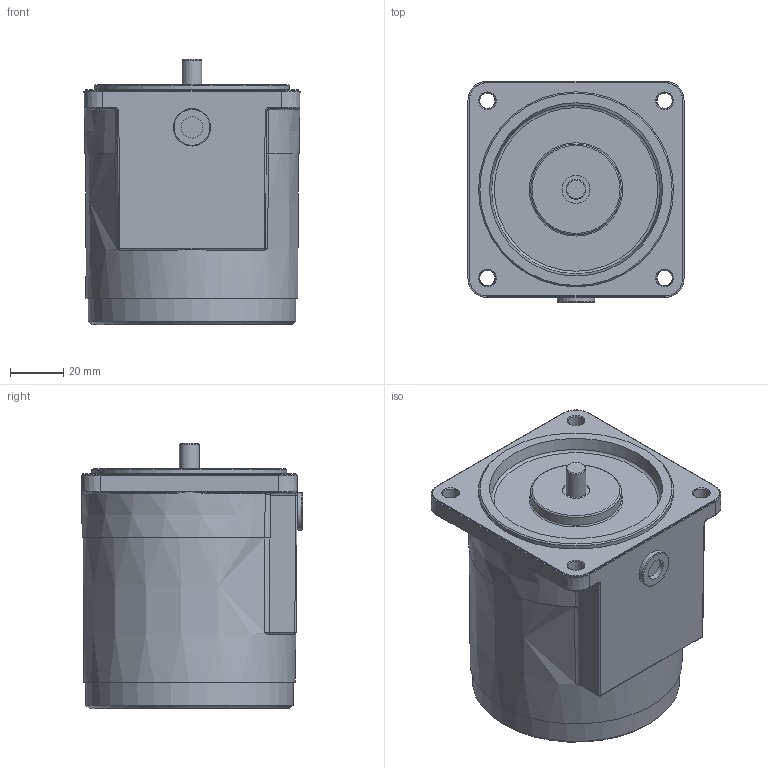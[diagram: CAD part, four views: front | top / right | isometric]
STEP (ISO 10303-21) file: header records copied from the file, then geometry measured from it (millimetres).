
FILE_DESCRIPTION (( 'STEP AP214' ), '1' );
FILE_NAME ('8IDG¤±-15G.STEP', '2025-01-13T01:47:03', ( '' ), ( '' ), 'SwSTEP 2.0', 'SolidWorks 2024', '' );
FILE_SCHEMA (( 'AUTOMOTIVE_DESIGN' ));
Length unit declared in the file: millimetre
Products named in the file (1): 8IDGㅁ-15G
Bounding box: 81 x 82.94 x 99.5 mm (x, y, z)
Volume: 453395 mm3; surface area: 38652.7 mm2
Topology: 1 solids, 1 shells, 168 faces, 355 edges, 208 vertices
Faces by surface type: plane 46, cone 39, torus 38, cylinder 25, bspline 18, sphere 2
Full cylindrical faces by diameter (mm): 7.49 x1, 8 x1, 10.5 x1, 14 x1, 34 x1, 73.1 x1
Entity records: 4508 total; most frequent: CARTESIAN_POINT 1265, DIRECTION 699, ORIENTED_EDGE 548, AXIS2_PLACEMENT_3D 317, EDGE_CURVE 274, EDGE_LOOP 265, FACE_OUTER_BOUND 200, VERTEX_POINT 197
